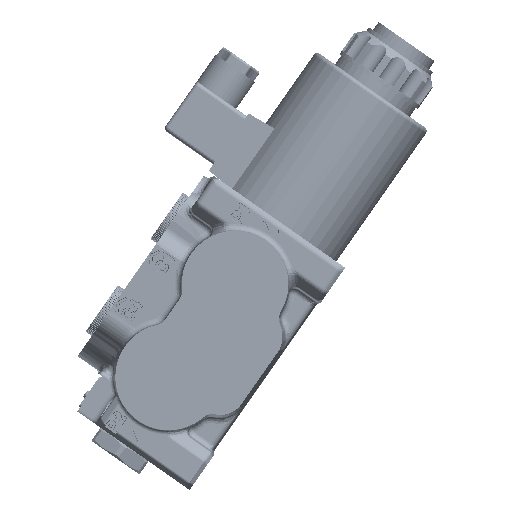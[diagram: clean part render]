
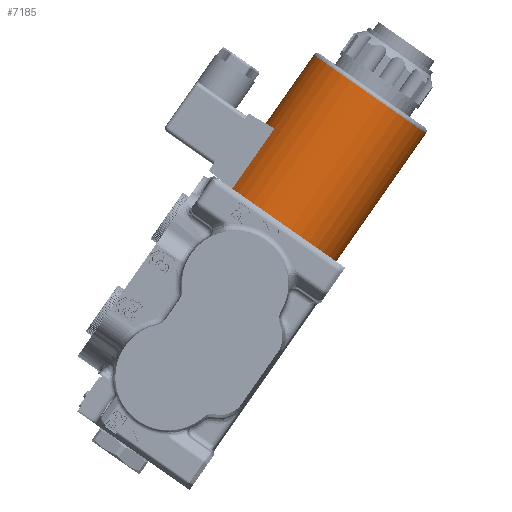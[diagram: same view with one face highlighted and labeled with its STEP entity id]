
A CAD part, front view. The second image highlights one B-rep face of the part: STEP entity #7185.
In plain terms, the highlighted cylindrical face has radius 31.5 mm (diameter 63 mm), a full revolution.
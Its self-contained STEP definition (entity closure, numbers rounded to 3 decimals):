
#204=ELLIPSE('',#42728,31.62,31.5);
#1271=CYLINDRICAL_SURFACE('',#42729,31.5);
#3389=CIRCLE('',#42725,31.5);
#3390=CIRCLE('',#42727,31.5);
#5448=FACE_BOUND('',#12295,.T.);
#5449=FACE_BOUND('',#12296,.T.);
#7185=ADVANCED_FACE('',(#5448,#5449),#1271,.T.);
#12295=EDGE_LOOP('',(#22099));
#12296=EDGE_LOOP('',(#22100,#22101,#22102,#22103));
#22099=ORIENTED_EDGE('',*,*,#33670,.T.);
#22100=ORIENTED_EDGE('',*,*,#33660,.F.);
#22101=ORIENTED_EDGE('',*,*,#33669,.T.);
#22102=ORIENTED_EDGE('',*,*,#33662,.F.);
#22103=ORIENTED_EDGE('',*,*,#33671,.F.);
#28411=VERTEX_POINT('',#113691);
#28412=VERTEX_POINT('',#113693);
#28413=VERTEX_POINT('',#113697);
#28414=VERTEX_POINT('',#113698);
#28419=VERTEX_POINT('',#113714);
#33660=EDGE_CURVE('',#28411,#28412,#36832,.T.);
#33662=EDGE_CURVE('',#28413,#28414,#36834,.T.);
#33669=EDGE_CURVE('',#28411,#28414,#3389,.T.);
#33670=EDGE_CURVE('',#28419,#28419,#3390,.T.);
#33671=EDGE_CURVE('',#28412,#28413,#204,.T.);
#36832=LINE('',#113692,#38929);
#36834=LINE('',#113696,#38931);
#38929=VECTOR('',#51868,1.);
#38931=VECTOR('',#51872,1.);
#42725=AXIS2_PLACEMENT_3D('',#113711,#51887,#51888);
#42727=AXIS2_PLACEMENT_3D('',#113713,#51891,#51892);
#42728=AXIS2_PLACEMENT_3D('',#113715,#51893,#51894);
#42729=AXIS2_PLACEMENT_3D('',#113716,#51895,#51896);
#51868=DIRECTION('',(0.574,0.,0.819));
#51872=DIRECTION('',(-0.574,0.,-0.819));
#51887=DIRECTION('',(0.574,0.,0.819));
#51888=DIRECTION('',(-0.819,0.,0.574));
#51891=DIRECTION('',(-0.574,0.,-0.819));
#51892=DIRECTION('',(-0.819,0.,0.574));
#51893=DIRECTION('',(-0.5,0.,-0.866));
#51894=DIRECTION('',(0.866,0.,-0.5));
#51895=DIRECTION('',(0.574,0.,0.819));
#51896=DIRECTION('',(-0.819,0.,0.574));
#113691=CARTESIAN_POINT('',(-639.92,-144.95,323.994));
#113692=CARTESIAN_POINT('',(-639.92,-144.95,323.994));
#113693=CARTESIAN_POINT('',(-620.474,-144.95,351.766));
#113696=CARTESIAN_POINT('',(-639.92,-112.144,323.994));
#113697=CARTESIAN_POINT('',(-620.474,-112.144,351.766));
#113698=CARTESIAN_POINT('',(-639.92,-112.144,323.994));
#113711=CARTESIAN_POINT('',(-617.892,-128.547,308.569));
#113713=CARTESIAN_POINT('',(-576.594,-128.547,367.548));
#113714=CARTESIAN_POINT('',(-602.397,-128.547,385.616));
#113715=CARTESIAN_POINT('',(-597.096,-128.547,338.268));
#113716=CARTESIAN_POINT('',(-617.892,-128.547,308.569));
